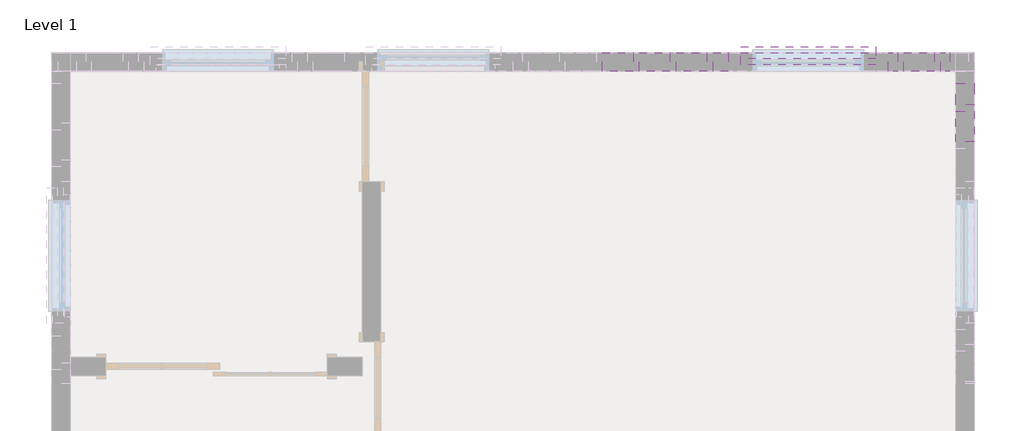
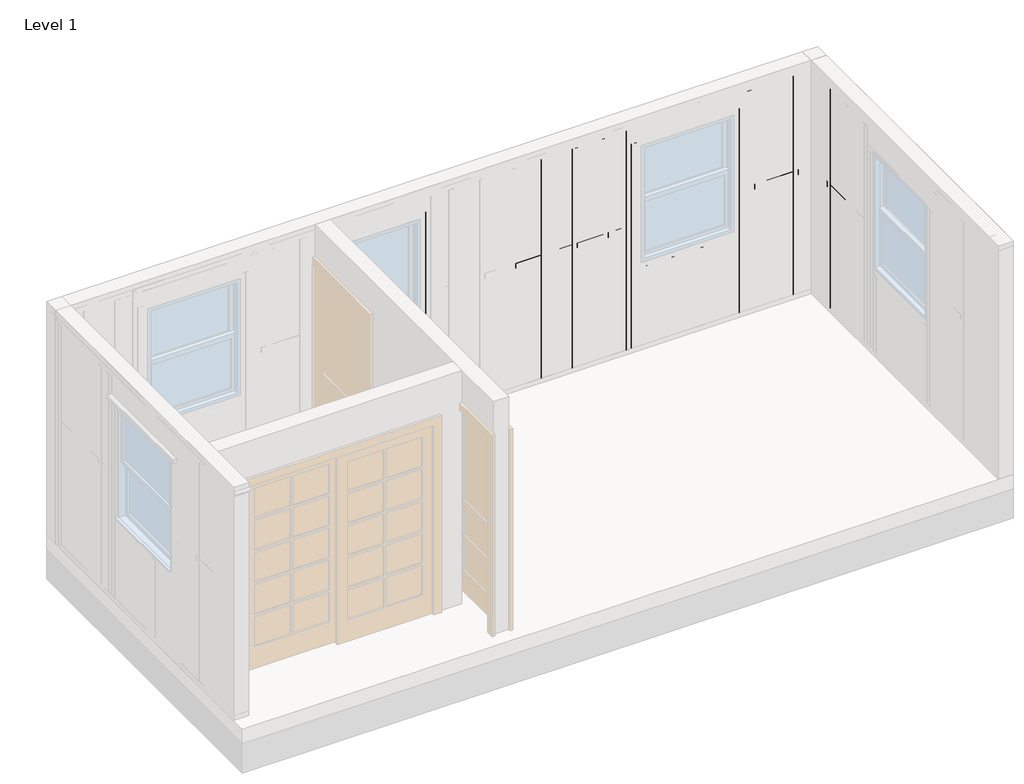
# One storey, part 12 of 12: 56 beams.
"""IFC4 building model written with IfcOpenShell, lengths in millimetres."""

from ifc_helpers import new_model, si_unit, frame, origin, place, context, project, spatial, polyline, outline, extrude, transform, mapped, element, save
from components import beam_a10b1f24, beam_f39a6334, beam_2a9cae29, beam_58c9feb9, beam_558964e0, beam_e0216813, beam_53cde7c3, beam_b7962ac8, beam_e05c4371, beam_19b97b81, beam_e041d9c6, beam_a2a0555c, beam_5666e245, beam_9d6aa0d6, beam_a4d90c35, beam_c2d99e7f, beam_9a5d82eb, beam_cc9ad65c

model = new_model("IFC4")

# Units and contexts
model_context = context("Model", 3, world=origin())
ifc_project = project(units=[si_unit("LENGTHUNIT", "METRE", prefix="MILLI")], contexts=[model_context])

# Site, building, storey
site = spatial("IfcSite", under=ifc_project)
building = spatial("IfcBuilding", under=site)
storey = spatial("IfcBuildingStorey", under=building, Name="Level 1", Elevation=0.0)

# Beams
placement = place(None, origin())
element("IfcBeam", 1, ObjectType="Rectangular(Timber)-Beam : Timber_0' - 1 31/32\" x0' - 5 29/32\" _ContentGenerator", at=placement, inside=storey, context=model_context, shape_type="SweptSolid", body=[
    extrude(outline(polyline([(-15585.0531336, 2336.8), (-15534.2531336, 2387.6), (-15534.2531336, 0.0), (-15585.0531336, 0.0), (-15585.0531336, 2336.8)])), frame((-4062.0790766, 0.0, 0.0), z_axis=(1.0, 0.0, 0.0), x_axis=(0.0, 1.0, 0.0)), (0.0, 0.0, 1.0), 152.4),
])
element("IfcBeam", 2, ObjectType="Rectangular(Timber)-Beam : Timber_0' - 1 31/32\" x0' - 5 29/32\" _ContentGenerator", at=placement, inside=storey, context=model_context, shape_type="SweptSolid", body=[
    extrude(outline(polyline([(2387.6, -3909.6740766), (2336.8, -3960.4740766), (0.0, -3960.4740766), (0.0, -3909.6740766), (2387.6, -3909.6740766)])), frame((0.0, -15534.2431336, 0.0), z_axis=(0.0, 1.0, 0.0), x_axis=(0.0, 0.0, 1.0)), (0.0, 0.0, 1.0), 152.4),
])
element("IfcBeam", 3, ObjectType="Rectangular(Timber)-Beam : Timber_0' - 1 31/32\" x0' - 5 29/32\" _ContentGenerator", at=placement, inside=storey, context=model_context, shape_type="SweptSolid", body=[
    extrude(outline(polyline([(-7719.6890766, -15534.2431336), (-7770.4890766, -15534.2431336), (-7770.4890766, -15381.8431336), (-7719.6890766, -15381.8431336), (-7719.6890766, -15534.2431336)])), frame((0.0, 0.0, 50.8), z_axis=(0.0, 0.0, 1.0), x_axis=(1.0, 0.0, 0.0)), (0.0, 0.0, 1.0), 2286.0),
])
beam_shape = beam_a10b1f24(model_context)
element("IfcBeam", 4, ObjectType="Rectangular(Timber)-Beam : Timber_0' - 1 31/32\" x0' - 5 29/32\" _ContentGenerator", at=placement, inside=storey, context=model_context, shape_type="MappedRepresentation", body=[
    mapped(beam_shape, transform((-5281.2590763, -15407.2431336, 2260.6), x_axis=(1.0, 0.0, 0.0), y_axis=(0.0, 1.0, 0.0), z_axis=(0.0, 0.0, 1.0))),
])
beam_2_shape = beam_f39a6334(model_context)
element("IfcBeam", 5, ObjectType="Rectangular(Timber)-Beam : Timber_0' - 1 31/32\" x0' - 5 29/32\" _ContentGenerator", at=placement, inside=storey, context=model_context, shape_type="MappedRepresentation", body=[
    mapped(beam_2_shape, transform((-4570.0740766, -15458.0431336, 1314.45), x_axis=(1.0000000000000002, 0.0, 0.0), y_axis=(0.0, 0.0, -1.0000000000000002), z_axis=(0.0, 1.0000000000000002, 0.0))),
])
beam_3_shape = beam_2a9cae29(model_context)
element("IfcBeam", 6, ObjectType="Rectangular(Timber)-Beam : Timber_0' - 1 31/32\" x0' - 5 29/32\" _ContentGenerator", at=placement, inside=storey, context=model_context, shape_type="MappedRepresentation", body=[
    mapped(beam_3_shape, transform((-5281.2540766, -15407.2431336, 2159.0), x_axis=(1.0, 0.0, 0.0), y_axis=(0.0, 0.0, -1.0), z_axis=(0.0, 1.0, 0.0))),
])
beam_4_shape = beam_58c9feb9(model_context)
element("IfcBeam", 7, ObjectType="Rectangular(Timber)-Beam : Timber_0' - 1 31/32\" x0' - 5 29/32\" _ContentGenerator", at=placement, inside=storey, context=model_context, shape_type="MappedRepresentation", body=[
    mapped(beam_4_shape, transform((-6017.8640763, -15458.0431336, 1314.45), x_axis=(1.0000000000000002, 0.0, 0.0), y_axis=(0.0, 0.0, -1.0000000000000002), z_axis=(0.0, 1.0000000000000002, 0.0))),
])
beam_5_shape = beam_558964e0(model_context)
element("IfcBeam", 8, ObjectType="Rectangular(Timber)-Beam : Timber_0' - 1 31/32\" x0' - 5 29/32\" _ContentGenerator", at=placement, inside=storey, context=model_context, shape_type="MappedRepresentation", body=[
    mapped(beam_5_shape, transform((-3985.8790766, -15610.4531336, 1193.8), x_axis=(0.0, 0.0, 1.0), y_axis=(0.0, -1.0, 0.0), z_axis=(1.0, 0.0, 0.0))),
])
element("IfcBeam", 9, ObjectType="Rectangular(Timber)-Beam : Timber_0' - 1 31/32\" x0' - 5 29/32\" _ContentGenerator", at=placement, inside=storey, context=model_context, shape_type="MappedRepresentation", body=[
    mapped(beam_5_shape, transform((-3985.8790766, -15839.0431336, 1193.8), x_axis=(0.0, 0.0, 1.0), y_axis=(0.0, -1.0, 0.0), z_axis=(1.0, 0.0, 0.0))),
])
element("IfcBeam", 10, ObjectType="Rectangular(Timber)-Beam : Timber_0' - 1 31/32\" x0' - 5 29/32\" _ContentGenerator", at=placement, inside=storey, context=model_context, shape_type="MappedRepresentation", body=[
    mapped(beam_5_shape, transform((-3935.0740766, -15458.0431336, 1193.8), x_axis=(0.0, 0.0, 1.0), y_axis=(-1.0, 0.0, 0.0), z_axis=(0.0, -1.0, 0.0))),
])
element("IfcBeam", 11, ObjectType="Rectangular(Timber)-Beam : Timber_0' - 1 31/32\" x0' - 5 29/32\" _ContentGenerator", at=placement, inside=storey, context=model_context, shape_type="MappedRepresentation", body=[
    mapped(beam_5_shape, transform((-6703.6790766, -15458.0431336, 1193.8), x_axis=(0.0, 0.0, 1.0), y_axis=(-1.0, 0.0, 0.0), z_axis=(0.0, -1.0, 0.0))),
])
element("IfcBeam", 12, ObjectType="Rectangular(Timber)-Beam : Timber_0' - 1 31/32\" x0' - 5 29/32\" _ContentGenerator", at=placement, inside=storey, context=model_context, shape_type="MappedRepresentation", body=[
    mapped(beam_5_shape, transform((-6398.8790766, -15458.0431336, 1193.8), x_axis=(0.0, 0.0, 1.0), y_axis=(-1.0, 0.0, 0.0), z_axis=(0.0, -1.0, 0.0))),
])
element("IfcBeam", 13, ObjectType="Rectangular(Timber)-Beam : Timber_0' - 1 31/32\" x0' - 5 29/32\" _ContentGenerator", at=placement, inside=storey, context=model_context, shape_type="MappedRepresentation", body=[
    mapped(beam_5_shape, transform((-6094.0790766, -15458.0431336, 1193.8), x_axis=(0.0, 0.0, 1.0), y_axis=(-1.0, 0.0, 0.0), z_axis=(0.0, -1.0, 0.0))),
])
element("IfcBeam", 14, ObjectType="Rectangular(Timber)-Beam : Timber_0' - 1 31/32\" x0' - 5 29/32\" _ContentGenerator", at=placement, inside=storey, context=model_context, shape_type="MappedRepresentation", body=[
    mapped(beam_5_shape, transform((-3935.0740766, -15458.0431336, 1193.8), x_axis=(0.0, 0.0, 1.0), y_axis=(-1.0, 0.0, 0.0), z_axis=(0.0, -1.0, 0.0))),
])
element("IfcBeam", 15, ObjectType="Rectangular(Timber)-Beam : Timber_0' - 1 31/32\" x0' - 5 29/32\" _ContentGenerator", at=placement, inside=storey, context=model_context, shape_type="MappedRepresentation", body=[
    mapped(beam_5_shape, transform((-3985.8690766, -15458.0431336, 1193.8), x_axis=(0.0, 0.0, 1.0), y_axis=(-1.0, 0.0, 0.0), z_axis=(0.0, -1.0, 0.0))),
])
element("IfcBeam", 16, ObjectType="Rectangular(Timber)-Beam : Timber_0' - 1 31/32\" x0' - 5 29/32\" _ContentGenerator", at=placement, inside=storey, context=model_context, shape_type="MappedRepresentation", body=[
    mapped(beam_5_shape, transform((-4036.6690766, -15458.0431336, 1193.8), x_axis=(0.0, 0.0, 1.0), y_axis=(-1.0, 0.0, 0.0), z_axis=(0.0, -1.0, 0.0))),
])
element("IfcBeam", 17, ObjectType="Rectangular(Timber)-Beam : Timber_0' - 1 31/32\" x0' - 5 29/32\" _ContentGenerator", at=placement, inside=storey, context=model_context, shape_type="MappedRepresentation", body=[
    mapped(beam_5_shape, transform((-4519.2790766, -15458.0431336, 1193.8), x_axis=(0.0, 0.0, 1.0), y_axis=(-1.0, 0.0, 0.0), z_axis=(0.0, -1.0, 0.0))),
])
element("IfcBeam", 18, ObjectType="Rectangular(Timber)-Beam : Timber_0' - 1 31/32\" x0' - 5 29/32\" _ContentGenerator", at=placement, inside=storey, context=model_context, shape_type="MappedRepresentation", body=[
    mapped(beam_5_shape, transform((-4214.4790766, -15458.0431336, 1193.8), x_axis=(0.0, 0.0, 1.0), y_axis=(-1.0, 0.0, 0.0), z_axis=(0.0, -1.0, 0.0))),
])
element("IfcBeam", 19, ObjectType="Rectangular(Timber)-Beam : Timber_0' - 1 31/32\" x0' - 5 29/32\" _ContentGenerator", at=placement, inside=storey, context=model_context, shape_type="MappedRepresentation", body=[
    mapped(beam_5_shape, transform((-5865.449076, -15458.0431336, 1193.8), x_axis=(0.0, 0.0, 1.0), y_axis=(-1.0, 0.0, 0.0), z_axis=(0.0, -1.0, 0.0))),
])
element("IfcBeam", 20, ObjectType="Rectangular(Timber)-Beam : Timber_0' - 1 31/32\" x0' - 5 29/32\" _ContentGenerator", at=placement, inside=storey, context=model_context, shape_type="MappedRepresentation", body=[
    mapped(beam_5_shape, transform((-4697.0690766, -15458.0431336, 1193.8), x_axis=(0.0, 0.0, 1.0), y_axis=(-1.0, 0.0, 0.0), z_axis=(0.0, -1.0, 0.0))),
])
element("IfcBeam", 21, ObjectType="Rectangular(Timber)-Beam : Timber_0' - 1 31/32\" x0' - 5 29/32\" _ContentGenerator", at=placement, inside=storey, context=model_context, shape_type="MappedRepresentation", body=[
    mapped(beam_5_shape, transform((-4087.4690766, -15458.0431336, 1193.8), x_axis=(0.0, 0.0, 1.0), y_axis=(-1.0, 0.0, 0.0), z_axis=(0.0, -1.0, 0.0))),
])
element("IfcBeam", 22, ObjectType="Rectangular(Timber)-Beam : Timber_0' - 1 31/32\" x0' - 5 29/32\" _ContentGenerator", at=placement, inside=storey, context=model_context, shape_type="MappedRepresentation", body=[
    mapped(beam_5_shape, transform((-4646.2690766, -15458.0431336, 1193.8), x_axis=(0.0, 0.0, 1.0), y_axis=(-1.0, 0.0, 0.0), z_axis=(0.0, -1.0, 0.0))),
])
element("IfcBeam", 23, ObjectType="Rectangular(Timber)-Beam : Timber_0' - 1 31/32\" x0' - 5 29/32\" _ContentGenerator", at=placement, inside=storey, context=model_context, shape_type="MappedRepresentation", body=[
    mapped(beam_5_shape, transform((-5916.249076, -15458.0431336, 1193.8), x_axis=(0.0, 0.0, 1.0), y_axis=(-1.0, 0.0, 0.0), z_axis=(0.0, -1.0, 0.0))),
])
beam_6_shape = beam_e0216813(model_context)
element("IfcBeam", 24, ObjectType="Rectangular(Timber)-Beam : Timber_0' - 1 31/32\" x0' - 5 29/32\" _ContentGenerator", at=placement, inside=storey, context=model_context, shape_type="MappedRepresentation", body=[
    mapped(beam_6_shape, transform((-5763.8690766, -15458.0431336, 1117.6), x_axis=(0.0, 0.0, 1.0), y_axis=(-1.0, 0.0, 0.0), z_axis=(0.0, -1.0, 0.0))),
])
element("IfcBeam", 25, ObjectType="Rectangular(Timber)-Beam : Timber_0' - 1 31/32\" x0' - 5 29/32\" _ContentGenerator", at=placement, inside=storey, context=model_context, shape_type="MappedRepresentation", body=[
    mapped(beam_6_shape, transform((-4798.6690766, -15458.0431336, 1117.6), x_axis=(0.0, 0.0, 1.0), y_axis=(-1.0, 0.0, 0.0), z_axis=(0.0, -1.0, 0.0))),
])
element("IfcBeam", 26, ObjectType="Rectangular(Timber)-Beam : Timber_0' - 1 31/32\" x0' - 5 29/32\" _ContentGenerator", at=placement, inside=storey, context=model_context, shape_type="MappedRepresentation", body=[
    mapped(beam_6_shape, transform((-4747.8590772, -15458.0431336, 1117.6), x_axis=(0.0, 0.0, 1.0), y_axis=(-1.0, 0.0, 0.0), z_axis=(0.0, -1.0, 0.0))),
])
element("IfcBeam", 27, ObjectType="Rectangular(Timber)-Beam : Timber_0' - 1 31/32\" x0' - 5 29/32\" _ContentGenerator", at=placement, inside=storey, context=model_context, shape_type="MappedRepresentation", body=[
    mapped(beam_6_shape, transform((-5814.6790772, -15458.0431336, 1117.6), x_axis=(0.0, 0.0, 1.0), y_axis=(-1.0, 0.0, 0.0), z_axis=(0.0, -1.0, 0.0))),
])
element("IfcBeam", 28, ObjectType="Rectangular(Timber)-Beam : Timber_0' - 1 31/32\" x0' - 5 29/32\" _ContentGenerator", at=placement, inside=storey, context=model_context, shape_type="MappedRepresentation", body=[
    mapped(beam_6_shape, transform((-7846.6690766, -15458.0431336, 1117.6), x_axis=(0.0, 0.0, 1.0), y_axis=(-1.0, 0.0, 0.0), z_axis=(0.0, -1.0, 0.0))),
])
beam_7_shape = beam_53cde7c3(model_context)
element("IfcBeam", 29, ObjectType="Rectangular(Timber)-Beam : Timber_0' - 1 31/32\" x0' - 5 29/32\" _ContentGenerator", at=placement, inside=storey, context=model_context, shape_type="MappedRepresentation", body=[
    mapped(beam_7_shape, transform((-7719.6715766, -15458.0431336, 25.4), x_axis=(-1.0000000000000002, 0.0, 0.0), y_axis=(0.0, 0.0, -1.0000000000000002), z_axis=(0.0, -1.0000000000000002, 0.0))),
])
element("IfcBeam", 30, ObjectType="Rectangular(Timber)-Beam : Timber_0' - 1 31/32\" x0' - 5 29/32\" _ContentGenerator", at=placement, inside=storey, context=model_context, shape_type="MappedRepresentation", body=[
    mapped(beam_7_shape, transform((-7719.6715766, -15458.0431336, 25.4), x_axis=(-1.0000000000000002, 0.0, 0.0), y_axis=(0.0, 0.0, -1.0000000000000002), z_axis=(0.0, -1.0000000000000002, 0.0))),
])
beam_8_shape = beam_b7962ac8(model_context)
element("IfcBeam", 31, ObjectType="Rectangular(Timber)-Beam : Timber_0' - 1 31/32\" x0' - 5 29/32\" _ContentGenerator", at=placement, inside=storey, context=model_context, shape_type="MappedRepresentation", body=[
    mapped(beam_8_shape, transform((-5713.0690766, -15458.0431336, 457.2), x_axis=(0.0, 0.0, 1.0), y_axis=(-1.0, 0.0, 0.0), z_axis=(0.0, -1.0, 0.0))),
])
element("IfcBeam", 32, ObjectType="Rectangular(Timber)-Beam : Timber_0' - 1 31/32\" x0' - 5 29/32\" _ContentGenerator", at=placement, inside=storey, context=model_context, shape_type="MappedRepresentation", body=[
    mapped(beam_8_shape, transform((-4849.4690766, -15458.0431336, 457.2), x_axis=(0.0, 0.0, 1.0), y_axis=(-1.0, 0.0, 0.0), z_axis=(0.0, -1.0, 0.0))),
])
element("IfcBeam", 33, ObjectType="Rectangular(Timber)-Beam : Timber_0' - 1 31/32\" x0' - 5 29/32\" _ContentGenerator", at=placement, inside=storey, context=model_context, shape_type="MappedRepresentation", body=[
    mapped(beam_8_shape, transform((-5442.1457433, -15458.0431336, 457.2), x_axis=(0.0, 0.0, 1.0), y_axis=(-1.0, 0.0, 0.0), z_axis=(0.0, -1.0, 0.0))),
])
element("IfcBeam", 34, ObjectType="Rectangular(Timber)-Beam : Timber_0' - 1 31/32\" x0' - 5 29/32\" _ContentGenerator", at=placement, inside=storey, context=model_context, shape_type="MappedRepresentation", body=[
    mapped(beam_8_shape, transform((-5120.4124099, -15458.0431336, 457.2), x_axis=(0.0, 0.0, 1.0), y_axis=(-1.0, 0.0, 0.0), z_axis=(0.0, -1.0, 0.0))),
])
beam_9_shape = beam_e05c4371(model_context)
element("IfcBeam", 35, ObjectType="Rectangular(Timber)-Beam : Timber_0' - 1 31/32\" x0' - 5 29/32\" _ContentGenerator", at=placement, inside=storey, context=model_context, shape_type="MappedRepresentation", body=[
    mapped(beam_9_shape, transform((-5281.2690766, -15458.0431336, 889.0), x_axis=(1.0000000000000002, 0.0, 0.0), y_axis=(0.0, 0.0, -1.0000000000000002), z_axis=(0.0, 1.0000000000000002, 0.0))),
])
beam_10_shape = beam_19b97b81(model_context)
element("IfcBeam", 36, ObjectType="Rectangular(Timber)-Beam : Timber_0' - 1 31/32\" x0' - 5 29/32\" _ContentGenerator", at=placement, inside=storey, context=model_context, shape_type="MappedRepresentation", body=[
    mapped(beam_10_shape, transform((-6856.0790766, -15458.0431336, 1314.45), x_axis=(1.0000000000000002, 0.0, 0.0), y_axis=(0.0, 0.0, -1.0000000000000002), z_axis=(0.0, 1.0000000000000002, 0.0))),
])
element("IfcBeam", 37, ObjectType="Rectangular(Timber)-Beam : Timber_0' - 1 31/32\" x0' - 5 29/32\" _ContentGenerator", at=placement, inside=storey, context=model_context, shape_type="MappedRepresentation", body=[
    mapped(beam_10_shape, transform((-6551.2790766, -15458.0431336, 1314.45), x_axis=(1.0000000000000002, 0.0, 0.0), y_axis=(0.0, 0.0, -1.0000000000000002), z_axis=(0.0, 1.0000000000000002, 0.0))),
])
element("IfcBeam", 38, ObjectType="Rectangular(Timber)-Beam : Timber_0' - 1 31/32\" x0' - 5 29/32\" _ContentGenerator", at=placement, inside=storey, context=model_context, shape_type="MappedRepresentation", body=[
    mapped(beam_10_shape, transform((-6246.4790766, -15458.0431336, 1314.45), x_axis=(1.0000000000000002, 0.0, 0.0), y_axis=(0.0, 0.0, -1.0000000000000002), z_axis=(0.0, 1.0000000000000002, 0.0))),
])
element("IfcBeam", 39, ObjectType="Rectangular(Timber)-Beam : Timber_0' - 1 31/32\" x0' - 5 29/32\" _ContentGenerator", at=placement, inside=storey, context=model_context, shape_type="MappedRepresentation", body=[
    mapped(beam_10_shape, transform((-4366.8790766, -15458.0431336, 1314.45), x_axis=(1.0000000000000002, 0.0, 0.0), y_axis=(0.0, 0.0, -1.0000000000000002), z_axis=(0.0, 1.0000000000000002, 0.0))),
])
element("IfcBeam", 40, ObjectType="Rectangular(Timber)-Beam : Timber_0' - 1 31/32\" x0' - 5 29/32\" _ContentGenerator", at=placement, inside=storey, context=model_context, shape_type="MappedRepresentation", body=[
    mapped(beam_10_shape, transform((-3985.8790766, -15991.4431336, 1314.45), x_axis=(0.0, 1.0000000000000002, 0.0), y_axis=(0.0, 0.0, -1.0000000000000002), z_axis=(-1.0000000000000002, 0.0, 0.0))),
])
beam_11_shape = beam_e041d9c6(model_context)
element("IfcBeam", 41, ObjectType="Rectangular(Timber)-Beam : Timber_0' - 1 31/32\" x0' - 5 29/32\" _ContentGenerator", at=placement, inside=storey, context=model_context, shape_type="MappedRepresentation", body=[
    mapped(beam_11_shape, transform((-3985.8790766, -15724.7481336, 1314.45), x_axis=(0.0, 1.0000000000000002, 0.0), y_axis=(0.0, 0.0, -1.0000000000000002), z_axis=(-1.0000000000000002, 0.0, 0.0))),
])
beam_12_shape = beam_a2a0555c(model_context)
element("IfcBeam", 42, ObjectType="Rectangular(Timber)-Beam : Timber_0' - 1 31/32\" x0' - 5 29/32\" _ContentGenerator", at=placement, inside=storey, context=model_context, shape_type="MappedRepresentation", body=[
    mapped(beam_12_shape, transform((-4163.6740766, -15458.0431336, 1314.45), x_axis=(1.0000000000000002, 0.0, 0.0), y_axis=(0.0, 0.0, -1.0000000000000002), z_axis=(0.0, 1.0000000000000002, 0.0))),
])
beam_13_shape = beam_5666e245(model_context)
element("IfcBeam", 43, ObjectType="WallPlates : 6\" x 3\"", at=placement, inside=storey, context=model_context, shape_type="MappedRepresentation", body=[
    mapped(beam_13_shape, transform((-3944.5990766, -15737.4481336, 791.1798851), x_axis=(0.0, 1.0000000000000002, 0.0), y_axis=(0.0, 0.0, -1.0000000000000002), z_axis=(-1.0000000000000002, 0.0, 0.0))),
])
beam_14_shape = beam_9d6aa0d6(model_context)
element("IfcBeam", 44, ObjectType="WallPlates : 6\" x 3\"", at=placement, inside=storey, context=model_context, shape_type="MappedRepresentation", body=[
    mapped(beam_14_shape, transform((-7440.2790766, -15416.7681336, 1219.2), x_axis=(1.0000000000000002, 0.0, 0.0), y_axis=(0.0, 0.0, -1.0000000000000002), z_axis=(0.0, 1.0000000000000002, 0.0))),
])
element("IfcBeam", 45, ObjectType="WallPlates : 6\" x 3\"", at=placement, inside=storey, context=model_context, shape_type="MappedRepresentation", body=[
    mapped(beam_14_shape, transform((-7135.4790766, -15416.7681336, 1219.2), x_axis=(1.0000000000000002, 0.0, 0.0), y_axis=(0.0, 0.0, -1.0000000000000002), z_axis=(0.0, 1.0000000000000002, 0.0))),
])
element("IfcBeam", 46, ObjectType="WallPlates : 6\" x 3\"", at=placement, inside=storey, context=model_context, shape_type="MappedRepresentation", body=[
    mapped(beam_14_shape, transform((-6830.6790766, -15416.7681336, 1219.2), x_axis=(1.0000000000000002, 0.0, 0.0), y_axis=(0.0, 0.0, -1.0000000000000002), z_axis=(0.0, 1.0000000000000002, 0.0))),
])
element("IfcBeam", 47, ObjectType="WallPlates : 6\" x 3\"", at=placement, inside=storey, context=model_context, shape_type="MappedRepresentation", body=[
    mapped(beam_14_shape, transform((-6525.8790766, -15416.7681336, 1219.2), x_axis=(1.0000000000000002, 0.0, 0.0), y_axis=(0.0, 0.0, -1.0000000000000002), z_axis=(0.0, 1.0000000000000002, 0.0))),
])
element("IfcBeam", 48, ObjectType="WallPlates : 6\" x 3\"", at=placement, inside=storey, context=model_context, shape_type="MappedRepresentation", body=[
    mapped(beam_14_shape, transform((-6221.0790766, -15416.7681336, 1219.2), x_axis=(1.0000000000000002, 0.0, 0.0), y_axis=(0.0, 0.0, -1.0000000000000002), z_axis=(0.0, 1.0000000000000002, 0.0))),
])
element("IfcBeam", 49, ObjectType="WallPlates : 6\" x 3\"", at=placement, inside=storey, context=model_context, shape_type="MappedRepresentation", body=[
    mapped(beam_14_shape, transform((-4341.4790766, -15416.7681336, 1219.2), x_axis=(1.0000000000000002, 0.0, 0.0), y_axis=(0.0, 0.0, -1.0000000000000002), z_axis=(0.0, 1.0000000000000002, 0.0))),
])
beam_15_shape = beam_a4d90c35(model_context)
element("IfcBeam", 50, ObjectType="WallPlates : 6\" x 3\"", at=placement, inside=storey, context=model_context, shape_type="MappedRepresentation", body=[
    mapped(beam_15_shape, transform((-3944.5990766, -15991.4431336, 1219.2), x_axis=(0.0, 1.0000000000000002, 0.0), y_axis=(0.0, 0.0, -1.0000000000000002), z_axis=(-1.0000000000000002, 0.0, 0.0))),
])
element("IfcBeam", 51, ObjectType="WallPlates : 6\" x 3\"", at=placement, inside=storey, context=model_context, shape_type="MappedRepresentation", body=[
    mapped(beam_15_shape, transform((-3944.5990766, -15991.4431336, 791.1798851), x_axis=(0.0, 1.0000000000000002, 0.0), y_axis=(0.0, 0.0, -1.0000000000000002), z_axis=(-1.0000000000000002, 0.0, 0.0))),
])
element("IfcBeam", 52, ObjectType="WallPlates : 6\" x 3\"", at=placement, inside=storey, context=model_context, shape_type="MappedRepresentation", body=[
    mapped(beam_13_shape, transform((-3944.5990766, -15737.4481336, 1219.2), x_axis=(0.0, 1.0000000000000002, 0.0), y_axis=(0.0, 0.0, -1.0000000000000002), z_axis=(-1.0000000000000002, 0.0, 0.0))),
])
beam_16_shape = beam_c2d99e7f(model_context)
element("IfcBeam", 53, ObjectType="WallPlates : 6\" x 3\"", at=placement, inside=storey, context=model_context, shape_type="MappedRepresentation", body=[
    mapped(beam_16_shape, transform((-4150.9740766, -15416.7681336, 1219.2), x_axis=(1.0000000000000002, 0.0, 0.0), y_axis=(0.0, 0.0, -1.0000000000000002), z_axis=(0.0, 1.0000000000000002, 0.0))),
])
beam_17_shape = beam_9a5d82eb(model_context)
element("IfcBeam", 54, ObjectType="WallPlates : 6\" x 3\"", at=placement, inside=storey, context=model_context, shape_type="MappedRepresentation", body=[
    mapped(beam_17_shape, transform((-7706.9740766, -15416.7681336, 1219.2), x_axis=(1.0000000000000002, 0.0, 0.0), y_axis=(0.0, 0.0, -1.0000000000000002), z_axis=(0.0, 1.0000000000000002, 0.0))),
])
element("IfcBeam", 55, ObjectType="WallPlates : 6\" x 3\"", at=placement, inside=storey, context=model_context, shape_type="MappedRepresentation", body=[
    mapped(beam_17_shape, transform((-4608.1740766, -15416.7681336, 1219.2), x_axis=(1.0000000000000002, 0.0, 0.0), y_axis=(0.0, 0.0, -1.0000000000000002), z_axis=(0.0, 1.0000000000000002, 0.0))),
])
beam_18_shape = beam_cc9ad65c(model_context)
element("IfcBeam", 56, ObjectType="WallPlates : 6\" x 3\"", at=placement, inside=storey, context=model_context, shape_type="MappedRepresentation", body=[
    mapped(beam_18_shape, transform((-5954.3740766, -15416.7681336, 1219.2), x_axis=(1.0000000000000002, 0.0, 0.0), y_axis=(0.0, 0.0, -1.0000000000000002), z_axis=(0.0, 1.0000000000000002, 0.0))),
])

save(model, "model.ifc")
